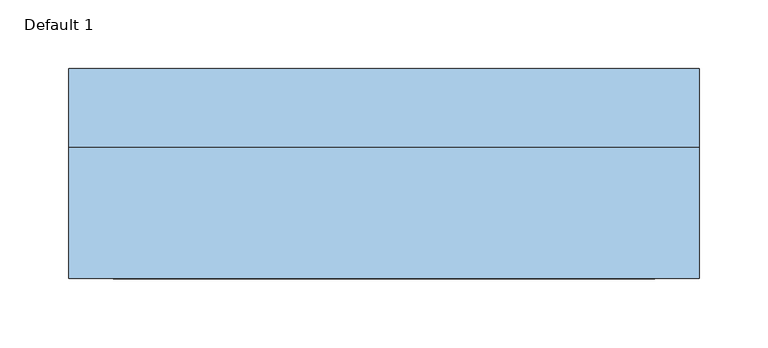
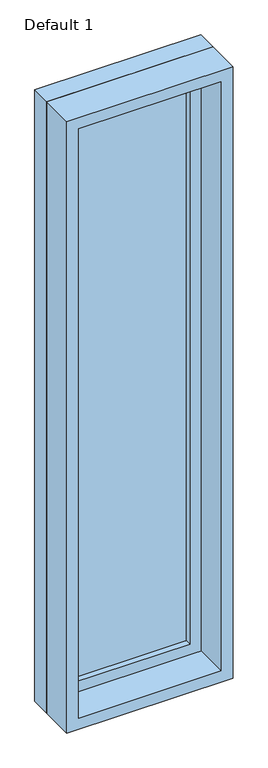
"""IFC4 building model written with IfcOpenShell, lengths in millimetres: window geometry, Planitar-Fixed : Default 1."""

import ifcopenshell
import ifcopenshell.guid

model = None  # the IFC model being written
_history = None  # IfcOwnerHistory: only IFC2X3 demands one
_inside = {}  # id of a spatial element -> (the spatial element, [elements in it])
_under = {}  # id of a project, library or spatial element -> (it, [spatial elements below it])
_declared = {}  # id of a project -> (the project, [libraries it declares])
_typed = {}  # id of a type object -> (the type object, [elements of that type])
_made_of = {}  # id of a material, layer set ... -> (it, [elements and type objects made of it])


def new_model(schema):
    """Start an empty IFC model of exactly this schema.

    Asked for "IFC4X3", IfcOpenShell would pick the latest addendum, in which some entities
    have other attributes; the version numbers below select the first issue.
    IFC2X3 requires an IfcOwnerHistory on every rooted entity: one is made here for all.
    """
    global model, _history
    if schema == "IFC4X3":
        model = ifcopenshell.file(schema_version=(4, 3, 0, 0))
    else:
        model = ifcopenshell.file(schema=schema)
    _inside.clear()
    _under.clear()
    _declared.clear()
    _typed.clear()
    _made_of.clear()
    _history = None
    if model.schema == "IFC2X3":
        org = make("IfcOrganization", Name="unknown")
        user = make(
            "IfcPersonAndOrganization",
            ThePerson=make("IfcPerson", FamilyName="unknown"),
            TheOrganization=org,
        )
        app = make(
            "IfcApplication",
            ApplicationDeveloper=org,
            Version="unknown",
            ApplicationFullName="unknown",
            ApplicationIdentifier="unknown",
        )
        _history = make(
            "IfcOwnerHistory",
            OwningUser=user,
            OwningApplication=app,
            ChangeAction="ADDED",
            CreationDate=0,
        )
    return model


def make(cls, **values):
    """One entity of the class cls with the attributes given. An attribute that is None is left unset."""
    return model.create_entity(
        cls, **{name: value for name, value in values.items() if value is not None}
    )


def rooted(cls, **values):
    """An entity with a GlobalId (a new one), such as an element, a storey or a relation."""
    return make(cls, GlobalId=ifcopenshell.guid.new(), OwnerHistory=_history, **values)


def si_unit(unit_type, name, prefix=None):
    """IfcSIUnit, for example si_unit("LENGTHUNIT", "METRE", prefix="MILLI")."""
    return make("IfcSIUnit", UnitType=unit_type, Prefix=prefix, Name=name)


def assignment(units):
    """IfcUnitAssignment: the units of a project."""
    return None if units is None else make("IfcUnitAssignment", Units=units)


def point(xyz):
    """IfcCartesianPoint."""
    return None if xyz is None else make("IfcCartesianPoint", Coordinates=xyz)


def direction(xyz):
    """IfcDirection."""
    return None if xyz is None else make("IfcDirection", DirectionRatios=xyz)


def frame(location, z_axis=None, x_axis=None):
    """IfcAxis2Placement3D, a coordinate frame: its origin and axes. An axis left out is left unset."""
    return make(
        "IfcAxis2Placement3D",
        Location=point(location),
        Axis=direction(z_axis),
        RefDirection=direction(x_axis),
    )


def origin():
    """The frame at (0, 0, 0) with its axes left unset."""
    return frame((0.0, 0.0, 0.0))


def place(relative_to, where):
    """IfcLocalPlacement: puts the frame where relative to a parent placement (None: the world)."""
    return make(
        "IfcLocalPlacement", PlacementRelTo=relative_to, RelativePlacement=where
    )


def context(
    kind, dimensions, precision=None, world=None, true_north=None, identifier=None
):
    """IfcGeometricRepresentationContext, for example the 3D "Model" context."""
    return make(
        "IfcGeometricRepresentationContext",
        ContextIdentifier=identifier,
        ContextType=kind,
        CoordinateSpaceDimension=dimensions,
        Precision=precision,
        WorldCoordinateSystem=world,
        TrueNorth=true_north,
    )


def project(units=None, contexts=None):
    """IfcProject with its units and contexts."""
    return rooted(
        "IfcProject",
        Name="project",
        RepresentationContexts=contexts,
        UnitsInContext=assignment(units),
    )


def spatial(cls, under=None, at=None, **own):
    """A site, building, storey or space (cls), placed at a placement, below another one or the project."""
    s = rooted(cls, ObjectPlacement=at, **own)
    if under is not None:
        _under.setdefault(under.id(), (under, []))[1].append(s)
    return s


def polyline(points):
    """IfcPolyline through the points."""
    return make("IfcPolyline", Points=[point(p) for p in points])


def outline(outer, holes=None, kind="AREA"):
    """IfcArbitraryClosedProfileDef: a profile drawn as a closed curve; with holes, ...WithVoids."""
    if holes is None:
        return make("IfcArbitraryClosedProfileDef", ProfileType=kind, OuterCurve=outer)
    return make(
        "IfcArbitraryProfileDefWithVoids",
        ProfileType=kind,
        OuterCurve=outer,
        InnerCurves=holes,
    )


def extrude(swept, where, along, depth):
    """IfcExtrudedAreaSolid: the profile swept, set in the frame where, extruded along a direction by depth."""
    return make(
        "IfcExtrudedAreaSolid",
        SweptArea=swept,
        Position=where,
        ExtrudedDirection=direction(along),
        Depth=depth,
    )


def shape(context_of_items, identifier, shape_type, items):
    """IfcShapeRepresentation: the items that make up one representation, for example the "Body"."""
    return make(
        "IfcShapeRepresentation",
        ContextOfItems=context_of_items,
        RepresentationIdentifier=identifier,
        RepresentationType=shape_type,
        Items=items,
    )


def source(mapping_origin, context_of_items, identifier, shape_type, items):
    """IfcRepresentationMap: a shape defined once, which mapped items show again and again."""
    return make(
        "IfcRepresentationMap",
        MappingOrigin=mapping_origin,
        MappedRepresentation=shape(context_of_items, identifier, shape_type, items),
    )


def transform(
    local_origin,
    x_axis=None,
    y_axis=None,
    z_axis=None,
    scale=None,
    scale2=None,
    scale3=None,
    uniform=True,
):
    """IfcCartesianTransformationOperator3D, or its non-uniform kind. x_axis, y_axis, z_axis: its Axis1, 2, 3."""
    if uniform:
        return make(
            "IfcCartesianTransformationOperator3D",
            Axis1=direction(x_axis),
            Axis2=direction(y_axis),
            LocalOrigin=point(local_origin),
            Scale=scale,
            Axis3=direction(z_axis),
        )
    return make(
        "IfcCartesianTransformationOperator3DnonUniform",
        Axis1=direction(x_axis),
        Axis2=direction(y_axis),
        LocalOrigin=point(local_origin),
        Scale=scale,
        Axis3=direction(z_axis),
        Scale2=scale2,
        Scale3=scale3,
    )


def mapped(mapping_source, mapping_target):
    """IfcMappedItem: shows the shape of a source again, moved by a transform."""
    return make(
        "IfcMappedItem", MappingSource=mapping_source, MappingTarget=mapping_target
    )


def made_of(thing, what):
    """Note that an element or type object is made of a material, layer set ...; save() writes the relation."""
    if what is not None:
        _made_of.setdefault(what.id(), (what, []))[1].append(thing)
    return thing


def element(
    cls,
    number,
    at=None,
    inside=None,
    cuts=None,
    type_object=None,
    material=None,
    context=None,
    identifier="Body",
    shape_type=None,
    held_by="IfcProductDefinitionShape",
    body=None,
    shapes=None,
    **own,
):
    """One element of the class cls, such as IfcWall. Its Tag is "e" and its number.

    at: its placement. inside: the storey or other place that contains it. cuts: it is an
    opening in that element (IfcRelVoidsElement). A single representation is given by context,
    identifier, shape_type and body (its items); several are given by shapes. held_by: the class
    of the entity that holds the representations. save() writes the other relations.
    """
    e = rooted(cls, Tag="e%d" % number, ObjectPlacement=at, **own)
    if body is not None:
        shapes = [shape(context, identifier, shape_type, body)]
    if shapes is not None:
        e.Representation = make(held_by, Representations=shapes)
    if inside is not None:
        _inside.setdefault(inside.id(), (inside, []))[1].append(e)
    if cuts is not None:
        rooted(
            "IfcRelVoidsElement", RelatingBuildingElement=cuts, RelatedOpeningElement=e
        )
    if type_object is not None:
        _typed.setdefault(type_object.id(), (type_object, []))[1].append(e)
    return made_of(e, material)


def aggregate(whole, parts):
    """IfcRelAggregates: a whole, such as a stair, and the parts it consists of."""
    return rooted("IfcRelAggregates", RelatingObject=whole, RelatedObjects=parts)


def save(model, path):
    """Write the relations noted so far, then the file.

    IfcRelAggregates (storeys below a building ...), IfcRelContainedInSpatialStructure (elements
    in a storey), IfcRelDefinesByType, IfcRelAssociatesMaterial and IfcRelDeclares: one each for
    every whole, place, type object, material and project.
    """
    for whole, parts in _under.values():
        aggregate(whole, parts)
    for where, things in _inside.values():
        rooted(
            "IfcRelContainedInSpatialStructure",
            RelatedElements=things,
            RelatingStructure=where,
        )
    for kind, things in _typed.values():
        rooted("IfcRelDefinesByType", RelatedObjects=things, RelatingType=kind)
    for what, things in _made_of.values():
        rooted("IfcRelAssociatesMaterial", RelatedObjects=things, RelatingMaterial=what)
    for by, libraries in _declared.values():
        rooted("IfcRelDeclares", RelatingContext=by, RelatedDefinitions=libraries)
    model.write(path)


def default_1_38690279(model_context):
    return source(origin(), model_context, "Body", "SweptSolid", [
        extrude(outline(polyline([(2673.4, -209.6), (933.4, -209.6), (933.4, 209.6), (2673.4, 209.6), (2673.4, -209.6)]), holes=[polyline([(2629.4, -165.6), (2629.4, 165.6), (977.4, 165.6), (977.4, -165.6), (2629.4, -165.6)])]), frame((0.0, 32.5, 0.0), z_axis=(0.0, 1.0, 0.0), x_axis=(0.0, 0.0, 1.0)), (0.0, 0.0, 1.0), 44.0),
        extrude(outline(polyline([(2692.4, -228.6), (914.4, -228.6), (914.4, 228.6), (2692.4, 228.6), (2692.4, -228.6)]), holes=[polyline([(2673.4, -209.6), (2673.4, 209.6), (933.4, 209.6), (933.4, -209.6), (2673.4, -209.6)])]), frame((0.0, 32.5, 0.0), z_axis=(0.0, 1.0, 0.0), x_axis=(0.0, 0.0, 1.0)), (0.0, 0.0, 1.0), 56.7),
        extrude(outline(polyline([(2692.4, -228.6), (914.4, -228.6), (914.4, 228.6), (2692.4, 228.6), (2692.4, -228.6)]), holes=[polyline([(2660.4, -196.6), (2660.4, 196.6), (946.4, 196.6), (946.4, -196.6), (2660.4, -196.6)])]), frame((0.0, -63.2, 0.0), z_axis=(0.0, 1.0, 0.0), x_axis=(0.0, 0.0, 1.0)), (0.0, 0.0, 1.0), 95.7),
        extrude(outline(polyline([(-165.6, 60.5), (165.6, 60.5), (165.6, 48.5), (-165.6, 48.5), (-165.6, 60.5)])), frame((0.0, 0.0, 977.4), z_axis=(0.0, 0.0, 1.0), x_axis=(1.0, 0.0, 0.0)), (0.0, 0.0, 1.0), 1652.0),
    ])


if __name__ == "__main__":
    model = new_model("IFC4")
    model_context = context("Model", 3, world=origin())
    ifc_project = project(units=[si_unit("LENGTHUNIT", "METRE", prefix="MILLI")], contexts=[model_context])
    site = spatial("IfcSite", under=ifc_project)
    building = spatial("IfcBuilding", under=site)
    placement = place(None, origin())
    default_1_shape = default_1_38690279(model_context)
    element("IfcWindow", 1, ObjectType="Planitar-Fixed : Default 1", at=placement, inside=building, context=model_context, shape_type="MappedRepresentation", body=[
        mapped(default_1_shape, transform((0.0, 0.0, 0.0), x_axis=(1.0, 0.0, 0.0), y_axis=(0.0, 1.0, 0.0), z_axis=(0.0, 0.0, 1.0))),
    ])
    save(model, "model.ifc")
